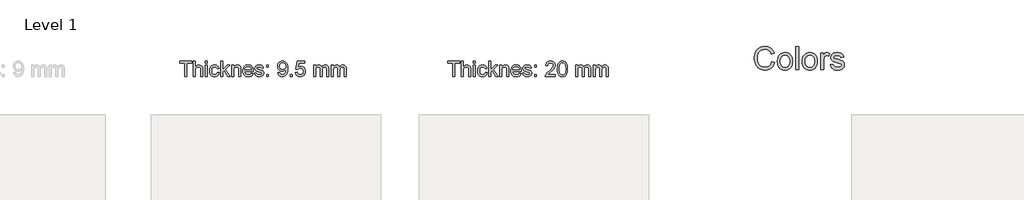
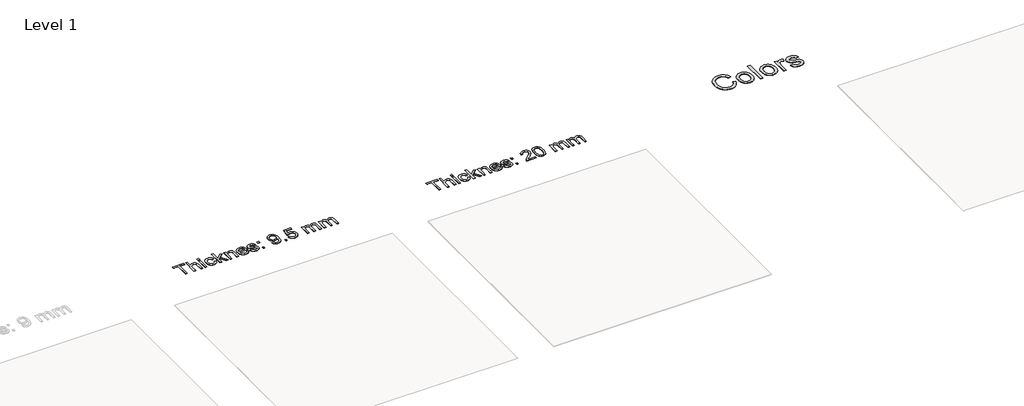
# One storey, part 3 of 5: 3 proxies.
"""IFC4 building model written with IfcOpenShell, lengths in millimetres."""

from ifc_helpers import new_model, si_unit, origin, origin_with_axes, place, context, project, spatial, polyline, outline, extrude, element, save

model = new_model("IFC4")

# Units and contexts
model_context = context("Model", 3, world=origin())
ifc_project = project(units=[si_unit("LENGTHUNIT", "METRE", prefix="MILLI")], contexts=[model_context])

# Site, building, storey
site = spatial("IfcSite", under=ifc_project)
building = spatial("IfcBuilding", under=site)
storey = spatial("IfcBuildingStorey", under=building, Name="Level 1", Elevation=0.0)

# Proxies
placement = place(None, origin())
element("IfcBuildingElementProxy", 1, Name="400mm Arial", ObjectType="400mm Arial", at=placement, inside=storey, context=model_context, shape_type="SweptSolid", body=[
    extrude(outline(polyline([(-16085.008477, 11625.1077423), (-16085.008477, 11976.7048278), (-16216.8573841, 11976.7048278), (-16216.8573841, 12026.9329829), (-15902.9314149, 12026.9329829), (-15902.9314149, 11976.7048278), (-16034.7803219, 11976.7048278), (-16034.7803219, 11625.1077423), (-16085.008477, 11625.1077423)])), origin_with_axes(), (0.0, 0.0, 1.0), 5.0),
    extrude(outline(polyline([(-15852.7032598, 11625.1077423), (-15852.7032598, 12026.9329829), (-15802.4751047, 12026.9329829), (-15802.4751047, 11879.1915736), (-15784.0258227, 11899.8788045), (-15763.307935, 11914.655398), (-15740.3214416, 11923.5213541), (-15715.0663427, 11926.4766728), (-15684.7283408, 11923.2515739), (-15658.6577701, 11913.5762775), (-15638.1299547, 11898.2110728), (-15624.420219, 11877.9162494), (-15616.6946971, 11850.0307942), (-15614.1195232, 11811.893694), (-15614.1195232, 11625.1077423), (-15664.3476783, 11625.1077423), (-15664.3476783, 11806.6942951), (-15668.3453293, 11838.135943), (-15680.3382823, 11859.6693024), (-15699.6643498, 11872.1037139), (-15725.6613441, 11876.2485177), (-15746.8881352, 11873.4526145), (-15766.8150766, 11865.064905), (-15783.3207155, 11851.8947296), (-15794.283599, 11834.7514286), (-15800.4272283, 11811.9672704), (-15802.4751047, 11781.8745232), (-15802.4751047, 11625.1077423), (-15852.7032598, 11625.1077423)])), origin_with_axes(), (0.0, 0.0, 1.0), 5.0),
    extrude(outline(polyline([(-15545.05581, 11625.1077423), (-15545.05581, 11920.1981534), (-15494.8276549, 11920.1981534), (-15494.8276549, 11625.1077423), (-15545.05581, 11625.1077423)])), origin_with_axes(), (0.0, 0.0, 1.0), 5.0),
    extrude(outline(polyline([(-15545.05581, 11976.7048278), (-15545.05581, 12026.9329829), (-15494.8276549, 12026.9329829), (-15494.8276549, 11976.7048278), (-15545.05581, 11976.7048278)])), origin_with_axes(), (0.0, 0.0, 1.0), 5.0),
    extrude(outline(polyline([(-15231.1298407, 11731.8425718), (-15180.9016857, 11725.5640525), (-15186.3647333, 11701.8632549), (-15194.9057269, 11680.8909155), (-15206.5246666, 11662.6470342), (-15221.2215523, 11647.1316111), (-15238.377116, 11634.7493163), (-15257.3720897, 11625.90482), (-15278.2064734, 11620.5981222), (-15300.880267, 11618.8292229), (-15329.0508308, 11621.297098), (-15354.3089955, 11628.7007231), (-15376.654761, 11641.0400984), (-15396.0881274, 11658.3152237), (-15411.8181484, 11680.2011368), (-15423.0538776, 11706.372875), (-15429.7953152, 11736.8304386), (-15432.042461, 11771.5738273), (-15428.2042256, 11816.2714897), (-15416.6895191, 11855.0094638), (-15397.3144007, 11886.2916961), (-15369.8949293, 11908.6221333), (-15337.0921181, 11922.0130379), (-15301.5669801, 11926.4766728), (-15279.2825282, 11924.9438311), (-15259.1256606, 11920.3453062), (-15241.0963771, 11912.6810979), (-15225.1946779, 11901.9512064), (-15211.690343, 11888.4008863), (-15200.8531525, 11872.2753921), (-15192.6831066, 11853.574724), (-15187.180205, 11832.298882), (-15237.4083601, 11826.0203626), (-15246.5195709, 11847.9338668), (-15260.7075531, 11863.642428), (-15279.187492, 11873.0969953), (-15301.1745726, 11876.2485177), (-15318.2412315, 11874.6972819), (-15333.6340273, 11870.0435747), (-15347.3529601, 11862.287396), (-15359.3980297, 11851.4287457), (-15369.2051506, 11837.216238), (-15376.2102369, 11819.3984867), (-15380.4132887, 11797.9754918), (-15381.814306, 11772.9472534), (-15376.3328642, 11725.8706208), (-15369.4810621, 11707.9333078), (-15359.888539, 11693.7299971), (-15348.0825927, 11682.9357263), (-15334.5905205, 11675.2255328), (-15319.4123225, 11670.5994167), (-15302.5479987, 11669.057378), (-15276.5387417, 11672.9078762), (-15255.2138487, 11684.4593709), (-15239.7014912, 11704.0061675), (-15231.1298407, 11731.8425718)])), origin_with_axes(), (0.0, 0.0, 1.0), 5.0),
    extrude(outline(polyline([(-15136.95205, 11625.1077423), (-15136.95205, 12026.9329829), (-15086.7238949, 12026.9329829), (-15086.7238949, 11811.0107772), (-14974.1029534, 11920.1981534), (-14904.6468328, 11920.1981534), (-15018.7393022, 11809.6373511), (-14898.3683134, 11625.1077423), (-14957.0332289, 11625.1077423), (-15054.7426868, 11774.713087), (-15086.7238949, 11743.6147957), (-15086.7238949, 11625.1077423), (-15136.95205, 11625.1077423)])), origin_with_axes(), (0.0, 0.0, 1.0), 5.0),
    extrude(outline(polyline([(-14854.4186777, 11625.1077423), (-14854.4186777, 11920.1981534), (-14804.1905226, 11920.1981534), (-14804.1905226, 11878.9953699), (-14786.7406533, 11899.7684399), (-14765.7836423, 11914.606347), (-14741.3194896, 11923.5090913), (-14713.3481953, 11926.4766728), (-14688.589737, 11924.0854398), (-14665.9159433, 11916.9117409), (-14647.0068088, 11905.8507556), (-14633.5423278, 11891.7976633), (-14624.4065916, 11874.7892524), (-14618.4836914, 11854.862311), (-14615.8349411, 11806.3018877), (-14615.8349411, 11625.1077423), (-14666.0630961, 11625.1077423), (-14666.0630961, 11799.532859), (-14667.5100987, 11825.5053278), (-14671.8511062, 11843.973004), (-14679.858671, 11857.2044931), (-14692.3053451, 11867.4684007), (-14708.259161, 11874.0534884), (-14726.7881508, 11876.2485177), (-14756.2064477, 11871.3188989), (-14781.283737, 11856.5300427), (-14791.3054557, 11844.4573819), (-14798.4638262, 11827.9578744), (-14802.7588485, 11807.0315203), (-14804.1905226, 11781.6783195), (-14804.1905226, 11625.1077423), (-14854.4186777, 11625.1077423)])), origin_with_axes(), (0.0, 0.0, 1.0), 5.0),
    extrude(outline(polyline([(-14340.1686994, 11713.0070137), (-14290.9215629, 11706.7284943), (-14298.4723409, 11687.003888), (-14308.6657378, 11669.6214637), (-14321.5017538, 11654.5812215), (-14336.9803887, 11641.8831613), (-14354.9422271, 11631.7970633), (-14375.2278535, 11624.5927075), (-14422.77047, 11618.8292229), (-14453.9362064, 11621.3154921), (-14481.7051656, 11628.7742995), (-14506.0773478, 11641.2056453), (-14527.0527529, 11658.6095293), (-14543.9201424, 11680.5015737), (-14555.9682777, 11706.3974005), (-14563.1971589, 11736.2970097), (-14565.606786, 11770.2004012), (-14563.1726335, 11805.253424), (-14555.8701759, 11836.1493802), (-14543.6994132, 11862.8882699), (-14526.6603454, 11885.470093), (-14505.7401226, 11903.4104717), (-14481.9258948, 11916.2250278), (-14455.217662, 11923.9137615), (-14425.6154241, 11926.4766728), (-14396.9666137, 11923.9198929), (-14371.0585242, 11916.2495533), (-14347.8911556, 11903.465654), (-14327.4645078, 11885.5681949), (-14310.7902564, 11863.0354227), (-14298.8800768, 11836.3455839), (-14291.733969, 11805.4986786), (-14289.3519331, 11770.4947068), (-14289.6462387, 11756.9566494), (-14515.3786309, 11756.9566494), (-14512.4692975, 11736.913212), (-14506.6843531, 11719.3591095), (-14498.0237978, 11704.2943418), (-14486.4876316, 11691.7189089), (-14472.7135165, 11681.8044891), (-14457.3391148, 11674.7227607), (-14421.7894513, 11669.057378), (-14395.056693, 11671.6816029), (-14372.5423149, 11679.5542776), (-14354.246317, 11693.1659114), (-14340.1686994, 11713.0070137)]), holes=[polyline([(-14515.3786309, 11807.1848045), (-14339.5800882, 11807.1848045), (-14346.3736423, 11833.721359), (-14359.6909706, 11852.70407), (-14373.3884435, 11863.0047659), (-14388.9743774, 11870.3624058), (-14406.4487721, 11874.7769897), (-14425.8116278, 11876.2485177), (-14459.6690341, 11871.5518909), (-14487.664854, 11857.4620105), (-14507.1258115, 11835.4994553), (-14515.3786309, 11807.1848045)])]), origin_with_axes(), (0.0, 0.0, 1.0), 5.0),
    extrude(outline(polyline([(-14257.9593362, 11713.0070137), (-14207.7311811, 11719.2855331), (-14199.8094555, 11697.8012246), (-14184.481039, 11682.0068242), (-14161.6478298, 11672.2947396), (-14131.2117261, 11669.057378), (-14101.1435044, 11672.0249594), (-14080.0025524, 11680.9277037), (-14067.4945645, 11693.828099), (-14063.3252352, 11708.7886335), (-14067.51909, 11721.5909269), (-14080.1006542, 11731.3520625), (-14131.8003373, 11745.6749349), (-14207.4368755, 11770.2494521), (-14226.579002, 11782.5980244), (-14240.4481532, 11798.9442478), (-14248.8726509, 11818.2457898), (-14251.6808168, 11839.4603182), (-14249.4244739, 11858.9212757), (-14242.6554452, 11876.8861798), (-14231.9868673, 11892.6437919), (-14218.031877, 11905.4828736), (-14186.0997198, 11920.3453062), (-14165.2162852, 11924.9438311), (-14142.8858481, 11926.4766728), (-14110.1934014, 11924.0118634), (-14081.7683859, 11916.6174353), (-14058.9106513, 11905.0168897), (-14042.9200472, 11889.9337279), (-14032.3250458, 11870.2520412), (-14025.6541189, 11844.8559208), (-14075.882274, 11838.5774014), (-14082.2221071, 11854.3840644), (-14094.7668831, 11866.2911783), (-14113.6392295, 11873.7591828), (-14138.9617735, 11876.2485177), (-14167.8037219, 11873.8695474), (-14187.0316875, 11866.7326367), (-14197.8474182, 11856.4319409), (-14201.4526617, 11844.5616152), (-14195.4684479, 11829.9444372), (-14176.7309916, 11818.8589264), (-14133.468069, 11808.1658231), (-14059.7445172, 11784.5232735), (-14040.2712969, 11773.2170336), (-14025.5069661, 11757.7414643), (-14016.1995517, 11738.0475148), (-14013.0970802, 11714.0861342), (-14016.7391119, 11689.3154132), (-14027.6652072, 11666.0162202), (-14045.458433, 11646.0157024), (-14069.7018565, 11631.141007), (-14098.9852633, 11621.9071689), (-14131.8984391, 11618.8292229), (-14158.9316344, 11620.3130136), (-14182.5435272, 11624.7643858), (-14202.7341173, 11632.1833393), (-14219.5034049, 11642.5698743), (-14233.2008779, 11655.8749398), (-14244.1760241, 11672.0494849), (-14252.4288435, 11691.0935095), (-14257.9593362, 11713.0070137)])), origin_with_axes(), (0.0, 0.0, 1.0), 5.0),
    extrude(outline(polyline([(-13944.0333669, 11869.9699983), (-13944.0333669, 11920.1981534), (-13893.8052119, 11920.1981534), (-13893.8052119, 11869.9699983), (-13944.0333669, 11869.9699983)])), origin_with_axes(), (0.0, 0.0, 1.0), 5.0),
    extrude(outline(polyline([(-13944.0333669, 11625.1077423), (-13944.0333669, 11675.3358974), (-13893.8052119, 11675.3358974), (-13893.8052119, 11625.1077423), (-13944.0333669, 11625.1077423)])), origin_with_axes(), (0.0, 0.0, 1.0), 5.0),
    extrude(outline(polyline([(-13648.9429559, 11725.5640525), (-13598.7148008, 11731.8425718), (-13590.1308876, 11703.3317172), (-13576.1513718, 11683.9198106), (-13557.1196099, 11672.7729861), (-13533.3789585, 11669.057378), (-13512.0785909, 11671.448611), (-13492.7157353, 11678.6223099), (-13476.6270293, 11689.7936598), (-13465.1491111, 11704.1778458), (-13448.7170486, 11747.8331759), (-13443.2723951, 11776.2336659), (-13441.4575106, 11806.1056839), (-13441.7518162, 11815.9158705), (-13459.1526346, 11794.6768166), (-13481.9245301, 11777.8523467), (-13508.4242965, 11766.8894632), (-13537.0087275, 11763.2351688), (-13560.8689406, 11765.4669862), (-13582.8100359, 11772.1624385), (-13602.8320135, 11783.3215257), (-13620.9348733, 11798.9442478), (-13635.9352617, 11818.2151329), (-13646.6498248, 11840.3187095), (-13653.0785626, 11865.2549774), (-13655.2214753, 11893.0239367), (-13652.9743294, 11921.7187323), (-13646.2328918, 11947.4704719), (-13634.9971626, 11970.2791556), (-13619.2671416, 11990.1447834), (-13600.1526063, 12006.2396207), (-13578.7633339, 12017.735933), (-13555.0993246, 12024.6337204), (-13529.1605783, 12026.9329829), (-13491.6979284, 12021.6845331), (-13457.5952675, 12005.9391837), (-13429.0721501, 11980.4817496), (-13408.348131, 11946.0970458), (-13395.7297786, 11898.5666921), (-13391.5236611, 11833.6723081), (-13395.7175159, 11764.8661123), (-13408.2990801, 11711.6826385), (-13429.1579892, 11671.7183911), (-13442.6500614, 11655.7921664), (-13458.1838786, 11642.5698743), (-13475.4467413, 11632.1833393), (-13494.1259496, 11624.7643858), (-13535.7334032, 11618.8292229), (-13558.2907009, 11620.5797281), (-13578.6774948, 11625.8312436), (-13596.8937849, 11634.5837694), (-13612.9395713, 11646.8373055), (-13626.4101837, 11662.2607581), (-13636.9009519, 11680.5230335), (-13644.411876, 11701.6241316), (-13648.9429559, 11725.5640525)]), holes=[polyline([(-13441.7518162, 11894.201159), (-13447.1719443, 11928.2425063), (-13453.9471043, 11942.320124), (-13463.4323284, 11954.4357044), (-13475.1616327, 11964.1784459), (-13488.6690333, 11971.137547), (-13521.0181234, 11976.7048278), (-13538.6274083, 11975.2057087), (-13554.5689614, 11970.7083513), (-13568.8427828, 11963.2127557), (-13581.4488725, 11952.7189217), (-13591.7495684, 11939.8399862), (-13599.1072083, 11925.1890858), (-13603.5217922, 11908.7662204), (-13604.9933202, 11890.57139), (-13599.4260393, 11859.5344124), (-13592.4669383, 11846.4163536), (-13582.7241967, 11834.8985814), (-13570.602485, 11825.5206562), (-13556.5064732, 11818.8221382), (-13522.3915495, 11813.4633238), (-13490.2999768, 11818.8221382), (-13464.462398, 11834.8985814), (-13454.5265185, 11846.6432141), (-13447.4294617, 11860.4418546), (-13441.7518162, 11894.201159)])]), origin_with_axes(), (0.0, 0.0, 1.0), 5.0),
    extrude(outline(polyline([(-13322.4599479, 11625.1077423), (-13322.4599479, 11675.3358974), (-13272.2317928, 11675.3358974), (-13272.2317928, 11625.1077423), (-13322.4599479, 11625.1077423)])), origin_with_axes(), (0.0, 0.0, 1.0), 5.0),
    extrude(outline(polyline([(-13190.6110408, 11731.8425718), (-13140.3828857, 11738.1210912), (-13131.1613104, 11707.9670304), (-13115.0726045, 11686.3723572), (-13092.1903444, 11673.3861228), (-13062.5881065, 11669.057378), (-13043.4582428, 11670.5626285), (-13026.5847219, 11675.07838), (-13011.967544, 11682.6046325), (-12999.6067089, 11693.1413859), (-12989.7781283, 11706.1674743), (-12982.7577135, 11721.1617312), (-12977.1413818, 11757.0547512), (-12982.4020943, 11790.8508439), (-12988.9779849, 11804.769046), (-12998.1842319, 11816.7006854), (-13010.0514919, 11826.2717486), (-13024.6104219, 11833.1082224), (-13061.8032916, 11838.5774014), (-13086.1693424, 11836.3946349), (-13105.9000801, 11829.8463354), (-13121.6576922, 11819.8154196), (-13134.1043664, 11807.1848045), (-13184.3325214, 11813.4633238), (-13140.3828857, 12020.6544635), (-12945.7487848, 12020.6544635), (-12945.7487848, 11970.4263084), (-13099.7687135, 11970.4263084), (-13121.3511239, 11859.7674043), (-13103.6253431, 11872.4715959), (-13085.4703666, 11881.5460184), (-13066.8861945, 11886.9906719), (-13047.8728267, 11888.8055564), (-13023.408674, 11886.5553449), (-13000.9310841, 11879.8047103), (-12980.440057, 11868.5536526), (-12961.9355926, 11852.8021719), (-12946.6133075, 11833.5128926), (-12935.6688182, 11811.6484393), (-12929.1021246, 11787.2088121), (-12926.9132267, 11760.1940109), (-12928.8813954, 11734.1724911), (-12934.7859014, 11709.9658559), (-12944.6267447, 11687.5741051), (-12958.4039255, 11666.9972388), (-12979.2750973, 11645.9237319), (-13003.6288854, 11630.8712269), (-13031.4652897, 11621.8397239), (-13062.7843102, 11618.8292229), (-13088.7046625, 11620.7636691), (-13112.1172858, 11626.5670076), (-13133.0221802, 11636.2392383), (-13151.4193456, 11649.7803614), (-13166.7263023, 11666.5159265), (-13178.3605704, 11685.7714833), (-13186.3221499, 11707.5470317), (-13190.6110408, 11731.8425718)])), origin_with_axes(), (0.0, 0.0, 1.0), 5.0),
    extrude(outline(polyline([(-12713.4435676, 11625.1077423), (-12713.4435676, 11920.1981534), (-12663.2154125, 11920.1981534), (-12663.2154125, 11871.63773), (-12648.1077253, 11893.9436416), (-12628.6835559, 11911.4180364), (-12605.6050921, 11922.7120137), (-12579.5345214, 11926.4766728), (-12551.6000152, 11922.6384373), (-12529.2082644, 11911.1237308), (-12512.4818964, 11892.6928429), (-12501.5435384, 11868.1060629), (-12483.2352778, 11893.6432047), (-12462.3518432, 11911.8840203), (-12438.8932346, 11922.8285096), (-12412.8594521, 11926.4766728), (-12392.7516354, 11924.9591595), (-12375.1024966, 11920.4066198), (-12359.9120359, 11912.8190537), (-12347.1802532, 11902.1964611), (-12337.115615, 11888.4162147), (-12329.9265876, 11871.3556871), (-12325.6131712, 11851.0148785), (-12324.1753658, 11827.3937887), (-12324.1753658, 11625.1077423), (-12374.4035209, 11625.1077423), (-12374.4035209, 11805.8113783), (-12375.5684805, 11830.8641422), (-12379.0633595, 11847.7499258), (-12385.611659, 11859.3136832), (-12395.9368803, 11868.4003684), (-12409.2174203, 11874.2864804), (-12424.6316759, 11876.2485177), (-12451.8426808, 11871.2207971), (-12474.0259652, 11856.1376353), (-12482.6313382, 11844.5677465), (-12488.7780332, 11829.9689627), (-12493.6953892, 11791.6847097), (-12493.6953892, 11625.1077423), (-12543.9235442, 11625.1077423), (-12543.9235442, 11811.4031847), (-12546.829812, 11839.8036747), (-12555.5486153, 11860.0617099), (-12570.8892945, 11872.2018157), (-12593.66119, 11876.2485177), (-12613.0117829, 11873.5507164), (-12630.841797, 11865.4573125), (-12645.5570768, 11852.1645097), (-12655.563467, 11833.8685118), (-12661.3024262, 11808.4846542), (-12663.2154125, 11773.9282721), (-12663.2154125, 11625.1077423), (-12713.4435676, 11625.1077423)])), origin_with_axes(), (0.0, 0.0, 1.0), 5.0),
    extrude(outline(polyline([(-12248.8331332, 11625.1077423), (-12248.8331332, 11920.1981534), (-12198.6049781, 11920.1981534), (-12198.6049781, 11871.63773), (-12183.4972908, 11893.9436416), (-12164.0731215, 11911.4180364), (-12140.9946577, 11922.7120137), (-12114.9240869, 11926.4766728), (-12086.9895808, 11922.6384373), (-12064.59783, 11911.1237308), (-12047.8714619, 11892.6928429), (-12036.9331039, 11868.1060629), (-12018.6248433, 11893.6432047), (-11997.7414087, 11911.8840203), (-11974.2828002, 11922.8285096), (-11948.2490176, 11926.4766728), (-11928.1412009, 11924.9591595), (-11910.4920622, 11920.4066198), (-11895.3016015, 11912.8190537), (-11882.5698188, 11902.1964611), (-11872.5051805, 11888.4162147), (-11865.3161532, 11871.3556871), (-11861.0027368, 11851.0148785), (-11859.5649313, 11827.3937887), (-11859.5649313, 11625.1077423), (-11909.7930864, 11625.1077423), (-11909.7930864, 11805.8113783), (-11910.9580461, 11830.8641422), (-11914.452925, 11847.7499258), (-11921.0012245, 11859.3136832), (-11931.3264459, 11868.4003684), (-11944.6069859, 11874.2864804), (-11960.0212415, 11876.2485177), (-11987.2322464, 11871.2207971), (-12009.4155307, 11856.1376353), (-12018.0209037, 11844.5677465), (-12024.1675987, 11829.9689627), (-12029.0849547, 11791.6847097), (-12029.0849547, 11625.1077423), (-12079.3131098, 11625.1077423), (-12079.3131098, 11811.4031847), (-12082.2193776, 11839.8036747), (-12090.9381808, 11860.0617099), (-12106.27886, 11872.2018157), (-12129.0507555, 11876.2485177), (-12148.4013485, 11873.5507164), (-12166.2313625, 11865.4573125), (-12180.9466423, 11852.1645097), (-12190.9530326, 11833.8685118), (-12196.6919917, 11808.4846542), (-12198.6049781, 11773.9282721), (-12198.6049781, 11625.1077423), (-12248.8331332, 11625.1077423)])), origin_with_axes(), (0.0, 0.0, 1.0), 5.0),
])
element("IfcBuildingElementProxy", 2, Name="400mm Arial", ObjectType="400mm Arial", at=placement, inside=storey, context=model_context, shape_type="SweptSolid", body=[
    extrude(outline(polyline([(-9085.008477, 11625.1077423), (-9085.008477, 11976.7048278), (-9216.8573841, 11976.7048278), (-9216.8573841, 12026.9329829), (-8902.9314149, 12026.9329829), (-8902.9314149, 11976.7048278), (-9034.7803219, 11976.7048278), (-9034.7803219, 11625.1077423), (-9085.008477, 11625.1077423)])), origin_with_axes(), (0.0, 0.0, 1.0), 5.0),
    extrude(outline(polyline([(-8852.7032598, 11625.1077423), (-8852.7032598, 12026.9329829), (-8802.4751047, 12026.9329829), (-8802.4751047, 11879.1915736), (-8784.0258227, 11899.8788045), (-8763.307935, 11914.655398), (-8740.3214416, 11923.5213541), (-8715.0663427, 11926.4766728), (-8684.7283408, 11923.2515739), (-8658.6577701, 11913.5762775), (-8638.1299547, 11898.2110728), (-8624.420219, 11877.9162494), (-8616.6946971, 11850.0307942), (-8614.1195232, 11811.893694), (-8614.1195232, 11625.1077423), (-8664.3476783, 11625.1077423), (-8664.3476783, 11806.6942951), (-8668.3453293, 11838.135943), (-8680.3382823, 11859.6693024), (-8699.6643498, 11872.1037139), (-8725.6613441, 11876.2485177), (-8746.8881352, 11873.4526145), (-8766.8150766, 11865.064905), (-8783.3207155, 11851.8947296), (-8794.283599, 11834.7514286), (-8800.4272283, 11811.9672704), (-8802.4751047, 11781.8745232), (-8802.4751047, 11625.1077423), (-8852.7032598, 11625.1077423)])), origin_with_axes(), (0.0, 0.0, 1.0), 5.0),
    extrude(outline(polyline([(-8545.05581, 11625.1077423), (-8545.05581, 11920.1981534), (-8494.8276549, 11920.1981534), (-8494.8276549, 11625.1077423), (-8545.05581, 11625.1077423)])), origin_with_axes(), (0.0, 0.0, 1.0), 5.0),
    extrude(outline(polyline([(-8545.05581, 11976.7048278), (-8545.05581, 12026.9329829), (-8494.8276549, 12026.9329829), (-8494.8276549, 11976.7048278), (-8545.05581, 11976.7048278)])), origin_with_axes(), (0.0, 0.0, 1.0), 5.0),
    extrude(outline(polyline([(-8231.1298407, 11731.8425718), (-8180.9016857, 11725.5640525), (-8186.3647333, 11701.8632549), (-8194.9057269, 11680.8909155), (-8206.5246666, 11662.6470342), (-8221.2215523, 11647.1316111), (-8238.377116, 11634.7493163), (-8257.3720897, 11625.90482), (-8278.2064734, 11620.5981222), (-8300.880267, 11618.8292229), (-8329.0508308, 11621.297098), (-8354.3089955, 11628.7007231), (-8376.654761, 11641.0400984), (-8396.0881274, 11658.3152237), (-8411.8181484, 11680.2011368), (-8423.0538776, 11706.372875), (-8429.7953152, 11736.8304386), (-8432.042461, 11771.5738273), (-8428.2042256, 11816.2714897), (-8416.6895191, 11855.0094638), (-8397.3144007, 11886.2916961), (-8369.8949293, 11908.6221333), (-8337.0921181, 11922.0130379), (-8301.5669801, 11926.4766728), (-8279.2825282, 11924.9438311), (-8259.1256606, 11920.3453062), (-8241.0963771, 11912.6810979), (-8225.1946779, 11901.9512064), (-8211.690343, 11888.4008863), (-8200.8531525, 11872.2753921), (-8192.6831066, 11853.574724), (-8187.180205, 11832.298882), (-8237.4083601, 11826.0203626), (-8246.5195709, 11847.9338668), (-8260.7075531, 11863.642428), (-8279.187492, 11873.0969953), (-8301.1745726, 11876.2485177), (-8318.2412315, 11874.6972819), (-8333.6340273, 11870.0435747), (-8347.3529601, 11862.287396), (-8359.3980297, 11851.4287457), (-8369.2051506, 11837.216238), (-8376.2102369, 11819.3984867), (-8380.4132887, 11797.9754918), (-8381.814306, 11772.9472534), (-8376.3328642, 11725.8706208), (-8369.4810621, 11707.9333078), (-8359.888539, 11693.7299971), (-8348.0825927, 11682.9357263), (-8334.5905205, 11675.2255328), (-8319.4123225, 11670.5994167), (-8302.5479987, 11669.057378), (-8276.5387417, 11672.9078762), (-8255.2138487, 11684.4593709), (-8239.7014912, 11704.0061675), (-8231.1298407, 11731.8425718)])), origin_with_axes(), (0.0, 0.0, 1.0), 5.0),
    extrude(outline(polyline([(-8136.95205, 11625.1077423), (-8136.95205, 12026.9329829), (-8086.7238949, 12026.9329829), (-8086.7238949, 11811.0107772), (-7974.1029534, 11920.1981534), (-7904.6468328, 11920.1981534), (-8018.7393022, 11809.6373511), (-7898.3683134, 11625.1077423), (-7957.0332289, 11625.1077423), (-8054.7426868, 11774.713087), (-8086.7238949, 11743.6147957), (-8086.7238949, 11625.1077423), (-8136.95205, 11625.1077423)])), origin_with_axes(), (0.0, 0.0, 1.0), 5.0),
    extrude(outline(polyline([(-7854.4186777, 11625.1077423), (-7854.4186777, 11920.1981534), (-7804.1905226, 11920.1981534), (-7804.1905226, 11878.9953699), (-7786.7406533, 11899.7684399), (-7765.7836423, 11914.606347), (-7741.3194896, 11923.5090913), (-7713.3481953, 11926.4766728), (-7688.589737, 11924.0854398), (-7665.9159433, 11916.9117409), (-7647.0068088, 11905.8507556), (-7633.5423278, 11891.7976633), (-7624.4065916, 11874.7892524), (-7618.4836914, 11854.862311), (-7615.8349411, 11806.3018877), (-7615.8349411, 11625.1077423), (-7666.0630961, 11625.1077423), (-7666.0630961, 11799.532859), (-7667.5100987, 11825.5053278), (-7671.8511062, 11843.973004), (-7679.858671, 11857.2044931), (-7692.3053451, 11867.4684007), (-7708.259161, 11874.0534884), (-7726.7881508, 11876.2485177), (-7756.2064477, 11871.3188989), (-7781.283737, 11856.5300427), (-7791.3054557, 11844.4573819), (-7798.4638262, 11827.9578744), (-7802.7588485, 11807.0315203), (-7804.1905226, 11781.6783195), (-7804.1905226, 11625.1077423), (-7854.4186777, 11625.1077423)])), origin_with_axes(), (0.0, 0.0, 1.0), 5.0),
    extrude(outline(polyline([(-7340.1686994, 11713.0070137), (-7290.9215629, 11706.7284943), (-7298.4723409, 11687.003888), (-7308.6657378, 11669.6214637), (-7321.5017538, 11654.5812215), (-7336.9803887, 11641.8831613), (-7354.9422271, 11631.7970633), (-7375.2278535, 11624.5927075), (-7422.77047, 11618.8292229), (-7453.9362064, 11621.3154921), (-7481.7051656, 11628.7742995), (-7506.0773478, 11641.2056453), (-7527.0527529, 11658.6095293), (-7543.9201424, 11680.5015737), (-7555.9682777, 11706.3974005), (-7563.1971589, 11736.2970097), (-7565.606786, 11770.2004012), (-7563.1726335, 11805.253424), (-7555.8701759, 11836.1493802), (-7543.6994132, 11862.8882699), (-7526.6603454, 11885.470093), (-7505.7401226, 11903.4104717), (-7481.9258948, 11916.2250278), (-7455.217662, 11923.9137615), (-7425.6154241, 11926.4766728), (-7396.9666137, 11923.9198929), (-7371.0585242, 11916.2495533), (-7347.8911556, 11903.465654), (-7327.4645078, 11885.5681949), (-7310.7902564, 11863.0354227), (-7298.8800768, 11836.3455839), (-7291.733969, 11805.4986786), (-7289.3519331, 11770.4947068), (-7289.6462387, 11756.9566494), (-7515.3786309, 11756.9566494), (-7512.4692975, 11736.913212), (-7506.6843531, 11719.3591095), (-7498.0237978, 11704.2943418), (-7486.4876316, 11691.7189089), (-7472.7135165, 11681.8044891), (-7457.3391148, 11674.7227607), (-7421.7894513, 11669.057378), (-7395.056693, 11671.6816029), (-7372.5423149, 11679.5542776), (-7354.246317, 11693.1659114), (-7340.1686994, 11713.0070137)]), holes=[polyline([(-7515.3786309, 11807.1848045), (-7339.5800882, 11807.1848045), (-7346.3736423, 11833.721359), (-7359.6909706, 11852.70407), (-7373.3884435, 11863.0047659), (-7388.9743774, 11870.3624058), (-7406.4487721, 11874.7769897), (-7425.8116278, 11876.2485177), (-7459.6690341, 11871.5518909), (-7487.664854, 11857.4620105), (-7507.1258115, 11835.4994553), (-7515.3786309, 11807.1848045)])]), origin_with_axes(), (0.0, 0.0, 1.0), 5.0),
    extrude(outline(polyline([(-7257.9593362, 11713.0070137), (-7207.7311811, 11719.2855331), (-7199.8094555, 11697.8012246), (-7184.481039, 11682.0068242), (-7161.6478298, 11672.2947396), (-7131.2117261, 11669.057378), (-7101.1435044, 11672.0249594), (-7080.0025524, 11680.9277037), (-7067.4945645, 11693.828099), (-7063.3252352, 11708.7886335), (-7067.51909, 11721.5909269), (-7080.1006542, 11731.3520625), (-7131.8003373, 11745.6749349), (-7207.4368755, 11770.2494521), (-7226.579002, 11782.5980244), (-7240.4481532, 11798.9442478), (-7248.8726509, 11818.2457898), (-7251.6808168, 11839.4603182), (-7249.4244739, 11858.9212757), (-7242.6554452, 11876.8861798), (-7231.9868673, 11892.6437919), (-7218.031877, 11905.4828736), (-7186.0997198, 11920.3453062), (-7165.2162852, 11924.9438311), (-7142.8858481, 11926.4766728), (-7110.1934014, 11924.0118634), (-7081.7683859, 11916.6174353), (-7058.9106513, 11905.0168897), (-7042.9200472, 11889.9337279), (-7032.3250458, 11870.2520412), (-7025.6541189, 11844.8559208), (-7075.882274, 11838.5774014), (-7082.2221071, 11854.3840644), (-7094.7668831, 11866.2911783), (-7113.6392295, 11873.7591828), (-7138.9617735, 11876.2485177), (-7167.8037219, 11873.8695474), (-7187.0316875, 11866.7326367), (-7197.8474182, 11856.4319409), (-7201.4526617, 11844.5616152), (-7195.4684479, 11829.9444372), (-7176.7309916, 11818.8589264), (-7133.468069, 11808.1658231), (-7059.7445172, 11784.5232735), (-7040.2712969, 11773.2170336), (-7025.5069661, 11757.7414643), (-7016.1995517, 11738.0475148), (-7013.0970802, 11714.0861342), (-7016.7391119, 11689.3154132), (-7027.6652072, 11666.0162202), (-7045.458433, 11646.0157024), (-7069.7018565, 11631.141007), (-7098.9852633, 11621.9071689), (-7131.8984391, 11618.8292229), (-7158.9316344, 11620.3130136), (-7182.5435272, 11624.7643858), (-7202.7341173, 11632.1833393), (-7219.5034049, 11642.5698743), (-7233.2008779, 11655.8749398), (-7244.1760241, 11672.0494849), (-7252.4288435, 11691.0935095), (-7257.9593362, 11713.0070137)])), origin_with_axes(), (0.0, 0.0, 1.0), 5.0),
    extrude(outline(polyline([(-6944.0333669, 11869.9699983), (-6944.0333669, 11920.1981534), (-6893.8052119, 11920.1981534), (-6893.8052119, 11869.9699983), (-6944.0333669, 11869.9699983)])), origin_with_axes(), (0.0, 0.0, 1.0), 5.0),
    extrude(outline(polyline([(-6944.0333669, 11625.1077423), (-6944.0333669, 11675.3358974), (-6893.8052119, 11675.3358974), (-6893.8052119, 11625.1077423), (-6944.0333669, 11625.1077423)])), origin_with_axes(), (0.0, 0.0, 1.0), 5.0),
    extrude(outline(polyline([(-6397.8021805, 11675.3358974), (-6397.8021805, 11625.1077423), (-6661.4999946, 11625.1077423), (-6660.3963487, 11642.7906035), (-6656.1043921, 11659.7377008), (-6643.7067688, 11686.8015529), (-6625.545661, 11713.0560646), (-6599.2911493, 11740.5368497), (-6562.6133143, 11771.2795217), (-6508.4242965, 11819.4230122), (-6475.9403163, 11854.9604129), (-6459.7167203, 11883.8023613), (-6454.308855, 11911.8594948), (-6459.4224147, 11937.0103605), (-6474.7630939, 11957.9183206), (-6498.3443298, 11972.008201), (-6528.1795596, 11976.7048278), (-6559.5108429, 11972.1185656), (-6583.8523682, 11958.359779), (-6599.5609294, 11936.5075885), (-6604.9933202, 11907.6411146), (-6655.2214753, 11913.919634), (-6650.9019275, 11939.8491833), (-6643.0445812, 11962.5045828), (-6631.6494364, 11981.8858326), (-6616.7164931, 11997.9929326), (-6598.5891078, 12010.6542046), (-6577.610637, 12019.6979703), (-6553.7810808, 12025.1242298), (-6527.1004391, 12026.9329829), (-6500.1806741, 12024.9218947), (-6476.2223591, 12018.8886299), (-6455.2254943, 12008.8331887), (-6437.1900795, 11994.7555711), (-6422.7047259, 11977.6981092), (-6412.3580448, 11958.7031355), (-6406.1500361, 11937.77065), (-6404.0806999, 11914.9006526), (-6406.3125173, 11890.8779584), (-6413.0079696, 11867.272197), (-6424.8905581, 11843.2617654), (-6442.6837839, 11818.0250606), (-6471.0474857, 11787.8955252), (-6514.6415022, 11749.206602), (-6572.4235009, 11700.8914333), (-6595.0850318, 11675.3358974), (-6397.8021805, 11675.3358974)])), origin_with_axes(), (0.0, 0.0, 1.0), 5.0),
    extrude(outline(polyline([(-6347.5740254, 11822.783001), (-6343.8829427, 11887.1010365), (-6332.8096947, 11938.3960494), (-6314.4646459, 11977.4528546), (-6302.6065829, 11992.6862348), (-6288.9581609, 12005.0562669), (-6273.4733946, 12014.6273302), (-6256.1062987, 12021.4638039), (-6215.7251184, 12026.9329829), (-6184.7739798, 12023.6956213), (-6157.0602029, 12013.9835367), (-6133.8836372, 11998.1768736), (-6116.5441325, 11976.6557769), (-6103.4475334, 11949.6041875), (-6092.9996848, 11917.2060465), (-6086.1570797, 11876.0645767), (-6083.8762113, 11822.783001), (-6087.5305058, 11758.8328476), (-6098.4933892, 11707.660462), (-6116.7280735, 11668.5668687), (-6128.5585453, 11653.2875031), (-6142.1977703, 11640.8530917), (-6157.7009307, 11631.2176491), (-6175.1232088, 11624.3351901), (-6215.7251184, 11618.8292229), (-6243.3898444, 11621.2204559), (-6267.9153107, 11628.3941548), (-6289.3015174, 11640.3503196), (-6307.5484644, 11657.0889504), (-6325.0596473, 11687.3472445), (-6337.5676352, 11725.0490177), (-6345.0724279, 11770.1942698), (-6347.5740254, 11822.783001)]), holes=[polyline([(-6297.3458704, 11822.8811029), (-6295.8743424, 11779.2165758), (-6291.4597584, 11743.8723131), (-6284.1021185, 11716.8483149), (-6273.8014227, 11698.1445811), (-6261.3424858, 11685.4189297), (-6247.5101227, 11676.3291788), (-6232.3043336, 11670.8753282), (-6215.7251184, 11669.057378), (-6199.1459031, 11670.8814596), (-6183.940114, 11676.3537042), (-6170.107751, 11685.474112), (-6157.6488141, 11698.2426829), (-6147.3481182, 11716.9770736), (-6139.9904783, 11743.9949404), (-6135.5758943, 11779.2962835), (-6134.1043664, 11822.8811029), (-6135.5268434, 11865.3898675), (-6139.7942746, 11900.1117964), (-6146.9066598, 11927.0468898), (-6156.8639991, 11946.1951477), (-6169.1144696, 11959.5431328), (-6183.1062481, 11969.0774078), (-6198.8393348, 11974.7979728), (-6216.3137296, 11976.7048278), (-6232.8071057, 11975.0248334), (-6247.7553774, 11969.9848501), (-6261.1585448, 11961.5848778), (-6273.0166077, 11949.8249167), (-6283.6606601, 11928.9782703), (-6291.2635547, 11900.8720859), (-6295.8252914, 11865.5063634), (-6297.3458704, 11822.8811029)])]), origin_with_axes(), (0.0, 0.0, 1.0), 5.0),
    extrude(outline(polyline([(-5870.4065522, 11625.1077423), (-5870.4065522, 11920.1981534), (-5820.1783971, 11920.1981534), (-5820.1783971, 11871.63773), (-5805.0707099, 11893.9436416), (-5785.6465405, 11911.4180364), (-5762.5680767, 11922.7120137), (-5736.497506, 11926.4766728), (-5708.5629998, 11922.6384373), (-5686.171249, 11911.1237308), (-5669.444881, 11892.6928429), (-5658.506523, 11868.1060629), (-5640.1982624, 11893.6432047), (-5619.3148278, 11911.8840203), (-5595.8562192, 11922.8285096), (-5569.8224367, 11926.4766728), (-5549.71462, 11924.9591595), (-5532.0654813, 11920.4066198), (-5516.8750205, 11912.8190537), (-5504.1432378, 11902.1964611), (-5494.0785996, 11888.4162147), (-5486.8895722, 11871.3556871), (-5482.5761559, 11851.0148785), (-5481.1383504, 11827.3937887), (-5481.1383504, 11625.1077423), (-5531.3665055, 11625.1077423), (-5531.3665055, 11805.8113783), (-5532.5314651, 11830.8641422), (-5536.0263441, 11847.7499258), (-5542.5746436, 11859.3136832), (-5552.8998649, 11868.4003684), (-5566.1804049, 11874.2864804), (-5581.5946605, 11876.2485177), (-5608.8056655, 11871.2207971), (-5630.9889498, 11856.1376353), (-5639.5943228, 11844.5677465), (-5645.7410178, 11829.9689627), (-5650.6583738, 11791.6847097), (-5650.6583738, 11625.1077423), (-5700.8865288, 11625.1077423), (-5700.8865288, 11811.4031847), (-5703.7927966, 11839.8036747), (-5712.5115999, 11860.0617099), (-5727.8522791, 11872.2018157), (-5750.6241746, 11876.2485177), (-5769.9747675, 11873.5507164), (-5787.8047816, 11865.4573125), (-5802.5200614, 11852.1645097), (-5812.5264516, 11833.8685118), (-5818.2654108, 11808.4846542), (-5820.1783971, 11773.9282721), (-5820.1783971, 11625.1077423), (-5870.4065522, 11625.1077423)])), origin_with_axes(), (0.0, 0.0, 1.0), 5.0),
    extrude(outline(polyline([(-5405.7961178, 11625.1077423), (-5405.7961178, 11920.1981534), (-5355.5679627, 11920.1981534), (-5355.5679627, 11871.63773), (-5340.4602754, 11893.9436416), (-5321.0361061, 11911.4180364), (-5297.9576423, 11922.7120137), (-5271.8870715, 11926.4766728), (-5243.9525654, 11922.6384373), (-5221.5608146, 11911.1237308), (-5204.8344465, 11892.6928429), (-5193.8960886, 11868.1060629), (-5175.5878279, 11893.6432047), (-5154.7043933, 11911.8840203), (-5131.2457848, 11922.8285096), (-5105.2120023, 11926.4766728), (-5085.1041855, 11924.9591595), (-5067.4550468, 11920.4066198), (-5052.2645861, 11912.8190537), (-5039.5328034, 11902.1964611), (-5029.4681651, 11888.4162147), (-5022.2791378, 11871.3556871), (-5017.9657214, 11851.0148785), (-5016.5279159, 11827.3937887), (-5016.5279159, 11625.1077423), (-5066.756071, 11625.1077423), (-5066.756071, 11805.8113783), (-5067.9210307, 11830.8641422), (-5071.4159096, 11847.7499258), (-5077.9642091, 11859.3136832), (-5088.2894305, 11868.4003684), (-5101.5699705, 11874.2864804), (-5116.9842261, 11876.2485177), (-5144.195231, 11871.2207971), (-5166.3785153, 11856.1376353), (-5174.9838883, 11844.5677465), (-5181.1305833, 11829.9689627), (-5186.0479393, 11791.6847097), (-5186.0479393, 11625.1077423), (-5236.2760944, 11625.1077423), (-5236.2760944, 11811.4031847), (-5239.1823622, 11839.8036747), (-5247.9011654, 11860.0617099), (-5263.2418446, 11872.2018157), (-5286.0137401, 11876.2485177), (-5305.3643331, 11873.5507164), (-5323.1943471, 11865.4573125), (-5337.9096269, 11852.1645097), (-5347.9160172, 11833.8685118), (-5353.6549763, 11808.4846542), (-5355.5679627, 11773.9282721), (-5355.5679627, 11625.1077423), (-5405.7961178, 11625.1077423)])), origin_with_axes(), (0.0, 0.0, 1.0), 5.0),
])
element("IfcBuildingElementProxy", 3, Name="600mm Arial", ObjectType="600mm Arial", at=placement, inside=storey, context=model_context, shape_type="SweptSolid", body=[
    extrude(outline(polyline([(-751.7554681, 12013.3203972), (-676.4132355, 11993.8962278), (-691.3216534, 11947.0418572), (-711.1780841, 11906.1011897), (-735.9825276, 11871.0742252), (-765.734984, 11841.9609638), (-799.7640685, 11819.0741052), (-837.3983966, 11802.726349), (-878.6379683, 11792.9176953), (-923.4827835, 11789.6481441), (-969.4266462, 11792.1221505), (-1010.8731514, 11799.5441698), (-1047.8222993, 11811.9142019), (-1080.2740898, 11829.2322468), (-1108.6745799, 11851.2407871), (-1133.4698263, 11877.6823056), (-1154.6598293, 11908.556802), (-1172.2445886, 11943.8642765), (-1186.053959, 11982.0780187), (-1195.917795, 12021.6713185), (-1201.8360966, 12062.6441757), (-1203.8088638, 12104.9965904), (-1201.5785792, 12150.4392138), (-1194.8877254, 12192.883599), (-1183.7363025, 12232.329746), (-1168.1243103, 12268.7776546), (-1148.4012368, 12301.6249183), (-1124.91657, 12330.2691301), (-1097.6703097, 12354.7102902), (-1066.662456, 12374.9483984), (-1032.9460712, 12390.817908), (-997.5742173, 12402.153272), (-960.5468945, 12408.9544904), (-921.8641027, 12411.2215632), (-878.7713255, 12408.2877042), (-839.2562007, 12399.4861275), (-803.3187283, 12384.816833), (-770.9589083, 12364.2798206), (-742.7101696, 12338.4177163), (-719.1059411, 12307.7731461), (-700.1462227, 12272.34611), (-685.8310146, 12232.1366079), (-761.1732472, 12214.1839665), (-773.0374416, 12243.8122627), (-787.2928689, 12269.1271425), (-803.9395292, 12290.1286059), (-822.9774224, 12306.8166529), (-844.5169132, 12319.5315744), (-868.6683662, 12328.6136611), (-895.4317814, 12334.0629132), (-924.8071587, 12335.8793305), (-958.606317, 12333.8651766), (-989.5176016, 12327.8227148), (-1017.5410126, 12317.7519452), (-1042.6765499, 12303.6528678), (-1064.6069154, 12286.1600789), (-1083.0148107, 12265.9081751), (-1097.9002359, 12242.8971563), (-1109.2631911, 12217.1270225), (-1123.6657712, 12161.9815114), (-1128.4666312, 12105.1437432), (-1122.7828544, 12035.5404697), (-1115.6781333, 12004.2705001), (-1105.7315239, 11975.3549753), (-1092.7820777, 11949.3687108), (-1076.6688463, 11926.8865224), (-1057.3918297, 11907.90841), (-1034.951028, 11892.4343736), (-1010.4362916, 11880.4276249), (-984.9374708, 11871.8513759), (-958.4545657, 11866.7056265), (-930.9875762, 11864.9903767), (-898.232283, 11867.3264274), (-868.0981491, 11874.3345794), (-840.5851744, 11886.0148327), (-815.6933589, 11902.3671874), (-794.0113138, 11923.3180671), (-776.1276503, 11948.7938952), (-762.0423684, 11978.7946719), (-751.7554681, 12013.3203972)])), origin_with_axes(), (0.0, 0.0, 1.0), 5.0),
    extrude(outline(polyline([(-601.0710029, 12020.3837315), (-596.9967098, 12077.7089434), (-584.7738305, 12127.1062983), (-564.402365, 12168.5757962), (-535.8823134, 12202.1174371), (-507.1691237, 12223.5557604), (-475.4760898, 12238.8688484), (-440.8032117, 12248.0567012), (-403.1504895, 12251.1193189), (-361.5844226, 12247.3899151), (-324.0006783, 12236.201704), (-290.3992565, 12217.5546853), (-260.7801574, 12191.4488592), (-236.6057118, 12158.7671425), (-219.3382506, 12120.3924519), (-208.9777739, 12076.3247874), (-205.5242817, 12026.564149), (-207.050992, 11986.2350853), (-211.6311228, 11950.4493642), (-219.2646742, 11919.2069858), (-229.9516462, 11892.50795), (-243.5586815, 11869.4463474), (-259.9524229, 11849.1162686), (-279.1328704, 11831.5177137), (-301.1000241, 11816.6506826), (-324.9985582, 11804.837072), (-349.9731471, 11796.3987787), (-376.0237909, 11791.3358028), (-403.1504895, 11789.6481441), (-445.3235617, 11793.3637523), (-483.256794, 11804.5105767), (-516.9501862, 11823.0886175), (-546.4037384, 11849.0978745), (-570.3206666, 11882.0968895), (-587.4041868, 11921.644204), (-597.6542989, 11967.739818), (-601.0710029, 12020.3837315)]), holes=[polyline([(-525.7287703, 12020.5308843), (-523.5490695, 11983.9864066), (-517.009967, 11952.3439565), (-506.1114629, 11925.6035339), (-490.8535572, 11903.765139), (-472.2939105, 11886.8011805), (-451.4901837, 11874.6840673), (-428.4423767, 11867.4137994), (-403.1504895, 11864.9903767), (-377.987361, 11867.4275949), (-355.0315245, 11874.7392496), (-334.28298, 11886.9253407), (-315.7417275, 11903.9858682), (-300.4838217, 11926.0403938), (-289.5853176, 11953.2084792), (-283.0462151, 11985.4901242), (-280.8665143, 12022.885329), (-283.0600107, 12058.2709785), (-289.6404999, 12089.0856941), (-300.6079819, 12115.3294759), (-315.9624567, 12137.002324), (-334.5726871, 12153.9662825), (-355.307436, 12166.0833957), (-378.1667035, 12173.3536636), (-403.1504895, 12175.7770862), (-428.4423767, 12173.3628606), (-451.4901837, 12166.1201839), (-472.2939105, 12154.0490559), (-490.8535572, 12137.1494767), (-506.1114629, 12115.3754612), (-517.009967, 12088.6810239), (-523.5490695, 12057.0661649), (-525.7287703, 12020.5308843)])]), origin_with_axes(), (0.0, 0.0, 1.0), 5.0),
    extrude(outline(polyline([(-120.76427, 11799.0659232), (-120.76427, 12401.8037841), (-45.4220374, 12401.8037841), (-45.4220374, 11799.0659232), (-120.76427, 11799.0659232)])), origin_with_axes(), (0.0, 0.0, 1.0), 5.0),
    extrude(outline(polyline([(48.7557534, 12020.3837315), (52.8300465, 12077.7089434), (65.0529257, 12127.1062983), (85.4243912, 12168.5757962), (113.9444429, 12202.1174371), (142.6576326, 12223.5557604), (174.3506665, 12238.8688484), (209.0235446, 12248.0567012), (246.6762668, 12251.1193189), (288.2423337, 12247.3899151), (325.826078, 12236.201704), (359.4274998, 12217.5546853), (389.0465989, 12191.4488592), (413.2210445, 12158.7671425), (430.4885057, 12120.3924519), (440.8489823, 12076.3247874), (444.3024746, 12026.564149), (442.7757643, 11986.2350853), (438.1956335, 11950.4493642), (430.5620821, 11919.2069858), (419.8751101, 11892.50795), (406.2680748, 11869.4463474), (389.8743334, 11849.1162686), (370.6938859, 11831.5177137), (348.7267322, 11816.6506826), (324.8281981, 11804.837072), (299.8536092, 11796.3987787), (273.8029654, 11791.3358028), (246.6762668, 11789.6481441), (204.5031945, 11793.3637523), (166.5699623, 11804.5105767), (132.8765701, 11823.0886175), (103.4230178, 11849.0978745), (79.5060896, 11882.0968895), (62.4225695, 11921.644204), (52.1724574, 11967.739818), (48.7557534, 12020.3837315)]), holes=[polyline([(124.097986, 12020.5308843), (126.2776868, 11983.9864066), (132.8167893, 11952.3439565), (143.7152934, 11925.6035339), (158.9731991, 11903.765139), (177.5328458, 11886.8011805), (198.3365726, 11874.6840673), (221.3843796, 11867.4137994), (246.6762668, 11864.9903767), (271.8393952, 11867.4275949), (294.7952317, 11874.7392496), (315.5437763, 11886.9253407), (334.0850288, 11903.9858682), (349.3429346, 11926.0403938), (360.2414387, 11953.2084792), (366.7805411, 11985.4901242), (368.960242, 12022.885329), (366.7667456, 12058.2709785), (360.1862564, 12089.0856941), (349.2187744, 12115.3294759), (333.8642996, 12137.002324), (315.2540692, 12153.9662825), (294.5193202, 12166.0833957), (271.6600528, 12173.3536636), (246.6762668, 12175.7770862), (221.3843796, 12173.3628606), (198.3365726, 12166.1201839), (177.5328458, 12154.0490559), (158.9731991, 12137.1494767), (143.7152934, 12115.3754612), (132.8167893, 12088.6810239), (126.2776868, 12057.0661649), (124.097986, 12020.5308843)])]), origin_with_axes(), (0.0, 0.0, 1.0), 5.0),
    extrude(outline(polyline([(529.0624863, 11799.0659232), (529.0624863, 12241.7015398), (594.9869398, 12241.7015398), (594.9869398, 12176.2185446), (619.3407279, 12214.1839665), (641.7815296, 12236.5511918), (664.2959077, 12247.4772871), (688.870425, 12251.1193189), (726.3943885, 12245.3067833), (764.5069632, 12227.8691768), (739.3438347, 12160.3260424), (712.8563311, 12171.9143253), (686.3688274, 12175.7770862), (663.8728434, 12172.0614781), (643.7680924, 12160.9146536), (627.5261023, 12143.1827415), (616.6184011, 12119.7118702), (607.4581394, 12077.6261699), (604.4047189, 12031.7144969), (604.4047189, 11799.0659232), (529.0624863, 11799.0659232)])), origin_with_axes(), (0.0, 0.0, 1.0), 5.0),
    extrude(outline(polyline([(783.3425213, 11930.9148303), (858.6847539, 11940.3326093), (863.2372936, 11923.1525202), (870.5673424, 11908.1061466), (880.6749002, 11895.1934885), (893.5599671, 11884.4145461), (909.2593312, 11875.916472), (927.8097808, 11869.8464191), (973.4639364, 11864.9903767), (1018.566269, 11869.4417489), (1036.0958461, 11875.005964), (1050.277697, 11882.7958653), (1069.0396788, 11902.1464582), (1073.7301742, 11912.980583), (1075.2936727, 11924.5872599), (1073.7209772, 11934.7591971), (1069.0028906, 11943.7907001), (1050.1305442, 11958.4324035), (1021.9139952, 11967.9973354), (972.5810196, 11979.916712), (903.8238748, 11999.8007339), (859.1262123, 12016.7784879), (830.4130226, 12035.3013464), (809.6092958, 12059.8206814), (796.9725493, 12088.7729944), (792.7603004, 12120.594787), (796.1448148, 12149.7862233), (806.2983578, 12176.7335794), (822.3012246, 12200.3699976), (843.2337101, 12219.6286201), (864.037437, 12231.7503318), (891.1319459, 12241.922269), (922.4570978, 12248.8200564), (955.9527535, 12251.1193189), (1004.9914234, 12247.4221048), (1047.6289467, 12236.3304626), (1081.9155486, 12218.9296443), (1105.9014547, 12196.3049016), (1121.7939569, 12166.7823715), (1131.8003472, 12128.6881909), (1056.4581145, 12119.2704118), (1046.948365, 12142.9804064), (1028.1312009, 12160.8410772), (999.8226814, 12172.043084), (961.8388654, 12175.7770862), (918.5759428, 12172.2086309), (889.7339943, 12161.5032648), (873.5103983, 12146.052221), (868.102533, 12128.2467325), (870.3466132, 12116.6584496), (877.0788537, 12106.3209656), (888.5935602, 12097.0871275), (905.1850381, 12089.6926994), (970.0794221, 12073.6530444), (1080.6647498, 12038.18922), (1109.8745802, 12021.2298601), (1132.0210764, 11998.0165062), (1145.9821981, 11968.475582), (1150.6359053, 11932.533511), (1145.1728577, 11895.3774295), (1128.7837148, 11860.42864), (1102.0938761, 11830.4278633), (1065.7287408, 11808.1158203), (1021.8036306, 11794.2650631), (972.4338669, 11789.6481441), (931.8840739, 11791.8738302), (896.4662348, 11798.5508884), (866.1803496, 11809.6793187), (841.0264182, 11825.2591212), (820.4802087, 11845.2167195), (804.0174895, 11869.4785371), (791.6382603, 11898.044574), (783.3425213, 11930.9148303)])), origin_with_axes(), (0.0, 0.0, 1.0), 5.0),
])

save(model, "model.ifc")
